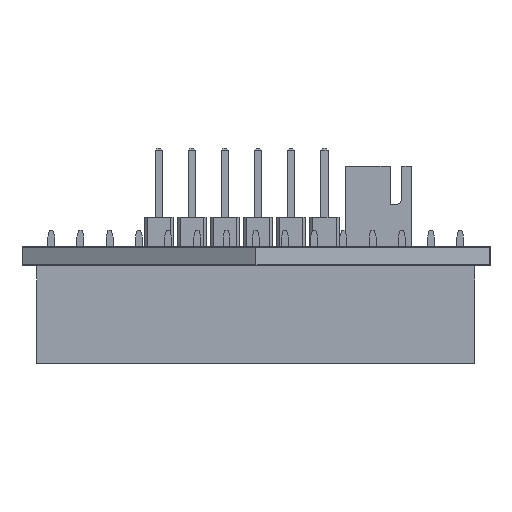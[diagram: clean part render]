
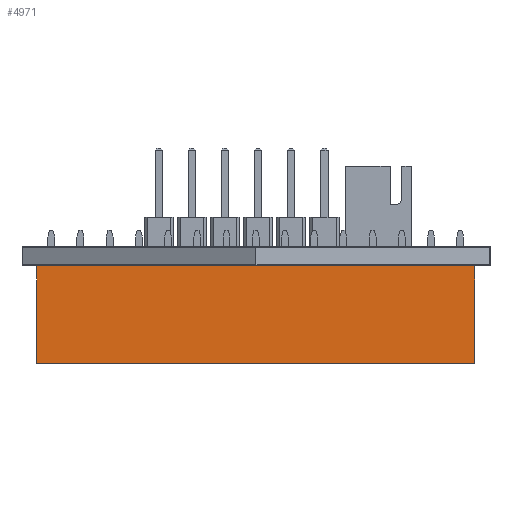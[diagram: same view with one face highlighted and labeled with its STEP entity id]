
A CAD part, left-side view. The second image highlights one B-rep face of the part: STEP entity #4971.
In plain terms, the highlighted planar face has unit normal (-1, 0, 0) as drawn and (1, 0, 0) by its records, which use the part's own axes.
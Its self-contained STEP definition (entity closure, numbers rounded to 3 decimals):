
#4971 = ADVANCED_FACE('',(#4972),#5006,.F.);
#4972 = FACE_BOUND('',#4973,.F.);
#4973 = EDGE_LOOP('',(#4974,#4984,#4992,#5000));
#4974 = ORIENTED_EDGE('',*,*,#4975,.T.);
#4975 = EDGE_CURVE('',#4976,#4978,#4980,.T.);
#4976 = VERTEX_POINT('',#4977);
#4977 = CARTESIAN_POINT('',(1.27,-36.83,0.));
#4978 = VERTEX_POINT('',#4979);
#4979 = CARTESIAN_POINT('',(1.27,-36.83,8.5));
#4980 = LINE('',#4981,#4982);
#4981 = CARTESIAN_POINT('',(1.27,-36.83,0.));
#4982 = VECTOR('',#4983,1.);
#4983 = DIRECTION('',(0.,0.,1.));
#4984 = ORIENTED_EDGE('',*,*,#4985,.T.);
#4985 = EDGE_CURVE('',#4978,#4986,#4988,.T.);
#4986 = VERTEX_POINT('',#4987);
#4987 = CARTESIAN_POINT('',(1.27,1.27,8.5));
#4988 = LINE('',#4989,#4990);
#4989 = CARTESIAN_POINT('',(1.27,-36.83,8.5));
#4990 = VECTOR('',#4991,1.);
#4991 = DIRECTION('',(0.,1.,0.));
#4992 = ORIENTED_EDGE('',*,*,#4993,.F.);
#4993 = EDGE_CURVE('',#4994,#4986,#4996,.T.);
#4994 = VERTEX_POINT('',#4995);
#4995 = CARTESIAN_POINT('',(1.27,1.27,0.));
#4996 = LINE('',#4997,#4998);
#4997 = CARTESIAN_POINT('',(1.27,1.27,0.));
#4998 = VECTOR('',#4999,1.);
#4999 = DIRECTION('',(0.,0.,1.));
#5000 = ORIENTED_EDGE('',*,*,#5001,.F.);
#5001 = EDGE_CURVE('',#4976,#4994,#5002,.T.);
#5002 = LINE('',#5003,#5004);
#5003 = CARTESIAN_POINT('',(1.27,-36.83,0.));
#5004 = VECTOR('',#5005,1.);
#5005 = DIRECTION('',(0.,1.,0.));
#5006 = PLANE('',#5007);
#5007 = AXIS2_PLACEMENT_3D('',#5008,#5009,#5010);
#5008 = CARTESIAN_POINT('',(1.27,-36.83,0.));
#5009 = DIRECTION('',(-1.,0.,0.));
#5010 = DIRECTION('',(0.,1.,0.));
